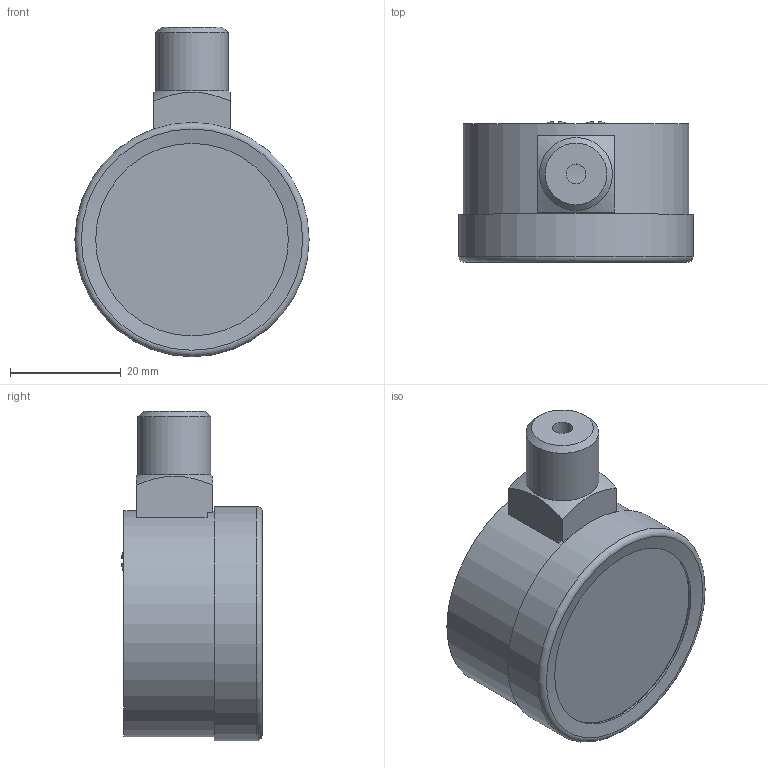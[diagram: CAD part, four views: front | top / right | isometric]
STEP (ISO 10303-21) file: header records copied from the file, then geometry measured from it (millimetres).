
FILE_DESCRIPTION(('STEP AP203'), '1');
FILE_NAME('VT.TM40.VC.02', '2024-09-09T07:02:48', ('User'), ('Vesta'), 'C3D Converter', 'C3D Toolkit', '');
FILE_SCHEMA(('CONFIG_CONTROL_DESIGN'));
Length unit declared in the file: millimetre
Products named in the file (1): ВР.408667.003.000 СБ
Bounding box: 42.3 x 25.42 x 59.5 mm (x, y, z)
Volume: 34364.5 mm3; surface area: 7199.8 mm2
Topology: 1 solids, 3 shells, 82 faces, 211 edges, 139 vertices
Faces by surface type: plane 45, cylinder 18, cone 14, torus 3, bspline 2
Full cylindrical faces by diameter (mm): 3.6 x1, 13.157 x1, 34.965 x1, 40.8 x1, 42.3 x1
Entity records: 4482 total; most frequent: CARTESIAN_POINT 2629, ORIENTED_EDGE 398, DIRECTION 328, EDGE_CURVE 199, VERTEX_POINT 139, AXIS2_PLACEMENT_3D 129, EDGE_LOOP 98, ADVANCED_FACE 82
